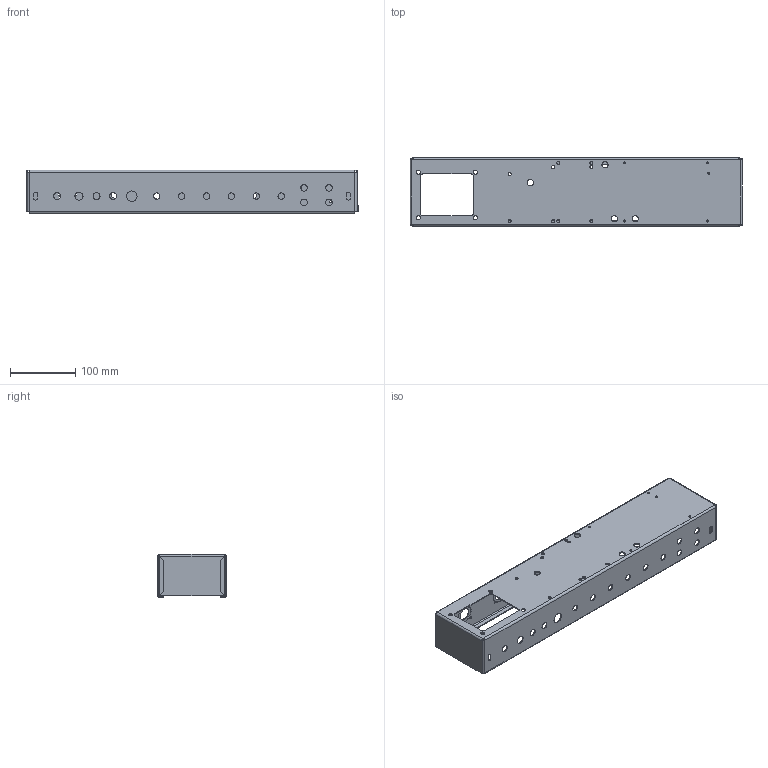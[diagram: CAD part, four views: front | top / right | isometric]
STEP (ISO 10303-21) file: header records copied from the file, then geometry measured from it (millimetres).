
FILE_DESCRIPTION((''),'2;1');
FILE_NAME('E:\Projects\Inv\Develop\5F6\5F6_BasSh.stp','2013-03-07T18:28:34',('Administrator'),(''),'Autodesk Inventor 2011','Autodesk Inventor 2011','');
FILE_SCHEMA(('AUTOMOTIVE_DESIGN { 1 0 10303 214 1 1 1 1 }'));
Length unit declared in the file: inch
Products named in the file (1): 5F6_BasSh
Bounding box: 508 x 104.78 x 66.67 mm (x, y, z)
Volume: 193486.1 mm3; surface area: 264513 mm2
Topology: 1 solids, 1 shells, 214 faces, 552 edges, 340 vertices
Faces by surface type: cylinder 128, plane 86
Full cylindrical faces by diameter (mm): 3.175 x31, 4.775 x9, 5.639 x2, 6.35 x4, 9.525 x8, 10 x10, 10.719 x3, 12.5 x1, 15.875 x1, 16 x1, 19.05 x6
Entity records: 6512 total; most frequent: DIRECTION 1166, CARTESIAN_POINT 1031, ORIENTED_EDGE 952, EDGE_CURVE 476, AXIS2_PLACEMENT_3D 475, EDGE_LOOP 460, VERTEX_POINT 340, CIRCLE 260
